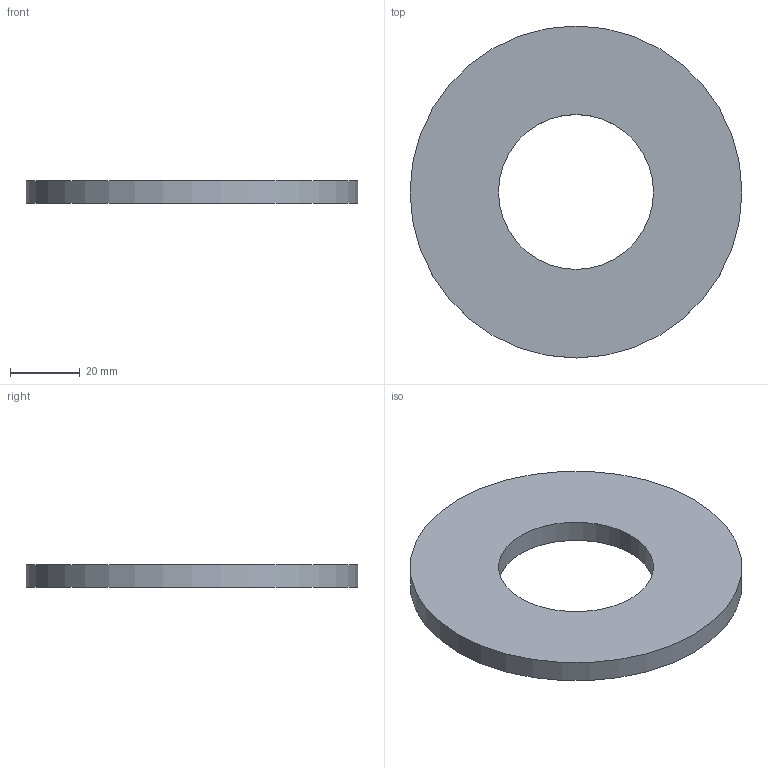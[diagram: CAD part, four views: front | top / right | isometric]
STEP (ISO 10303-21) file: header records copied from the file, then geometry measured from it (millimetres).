
FILE_DESCRIPTION(/* description */ (''),/* implementation_level */ '2;1');
FILE_NAME(/* name */ 'C:\001_Work\Designs\HLW\HLW-1.625.stp',/* time_stamp */ '2015-09-04T08:59:46-04:00',/* author */ ('rramoutar'),/* organization */ ('Mason Industries Inc.'),/* preprocessor_version */ 'ST-DEVELOPER v15.6',/* originating_system */ 'Autodesk Inventor 2015',/* authorisation */ '');
FILE_SCHEMA (('AUTOMOTIVE_DESIGN { 1 0 10303 214 3 1 1 }'));
Length unit declared in the file: inch
Products named in the file (1): HLW-1.625
Bounding box: 95.25 x 95.25 x 6.35 mm (x, y, z)
Volume: 35393.5 mm3; surface area: 13934.5 mm2
Topology: 1 solids, 1 shells, 4 faces, 6 edges, 4 vertices
Faces by surface type: cylinder 2, plane 2
Full cylindrical faces by diameter (mm): 44.45 x1, 95.25 x1
Entity records: 114 total; most frequent: DIRECTION 18, CARTESIAN_POINT 13, AXIS2_PLACEMENT_3D 9, EDGE_LOOP 8, ORIENTED_EDGE 8, FACE_BOUND 4, FACE_OUTER_BOUND 4, CIRCLE 4
